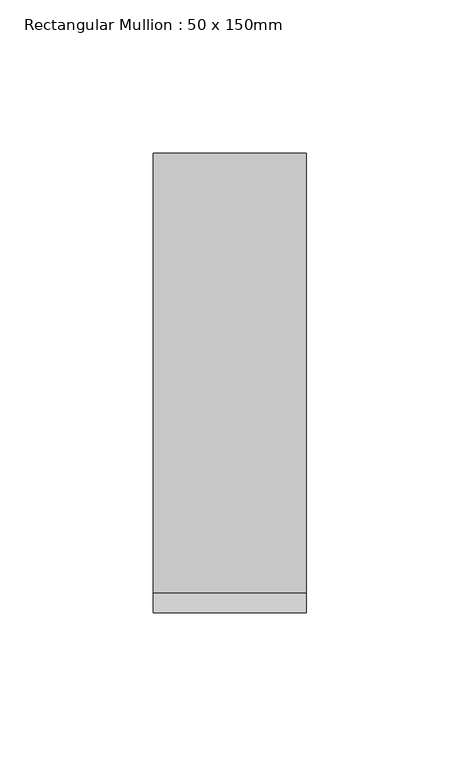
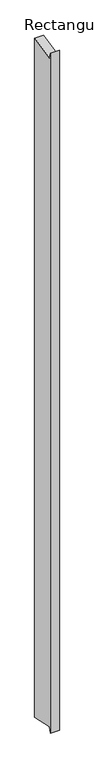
"""IFC4 building model written with IfcOpenShell, lengths in millimetres: member geometry, Rectangular Mullion : 50 x 150mm."""

from ifc_helpers import new_model, si_unit, frame, origin, place, context, project, spatial, polyline, outline, extrude, source, transform, mapped, element, save


def rectangular_mullion_50_x_150mm_3491e2ff(model_context):
    return source(origin(), model_context, "Body", "SweptSolid", [
        extrude(outline(polyline([(-75.0, 17.4234614), (-68.4846923, -14.4948974), (75.0, 14.7937927), (75.0, -3964.7937927), (-68.4846923, -3935.5051026), (-75.0, -3967.4234614), (-75.0, 17.4234614)])), frame((-50.0, 0.0, 0.0), z_axis=(1.0, 0.0, 0.0), x_axis=(0.0, 1.0, 0.0)), (0.0, 0.0, 1.0), 50.0),
    ])


if __name__ == "__main__":
    model = new_model("IFC4")
    model_context = context("Model", 3, world=origin())
    ifc_project = project(units=[si_unit("LENGTHUNIT", "METRE", prefix="MILLI")], contexts=[model_context])
    site = spatial("IfcSite", under=ifc_project)
    building = spatial("IfcBuilding", under=site)
    placement = place(None, origin())
    rectangular_mullion_50_x_150mm_shape = rectangular_mullion_50_x_150mm_3491e2ff(model_context)
    element("IfcMember", 1, ObjectType="Rectangular Mullion : 50 x 150mm", at=placement, inside=building, context=model_context, shape_type="MappedRepresentation", body=[
        mapped(rectangular_mullion_50_x_150mm_shape, transform((0.0, 0.0, 0.0), x_axis=(1.0, 0.0, 0.0), y_axis=(0.0, 1.0, 0.0), z_axis=(0.0, 0.0, 1.0))),
    ])
    save(model, "model.ifc")
